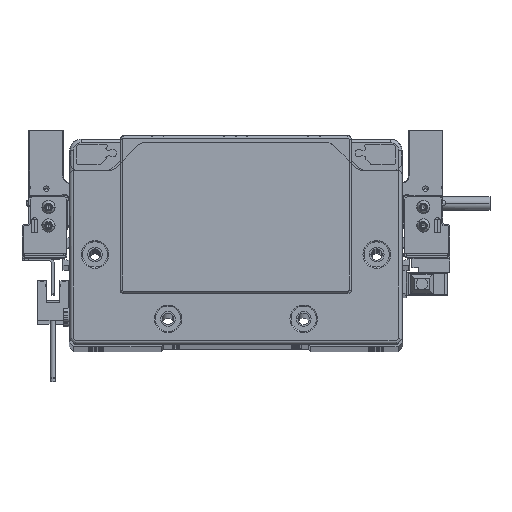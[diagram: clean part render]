
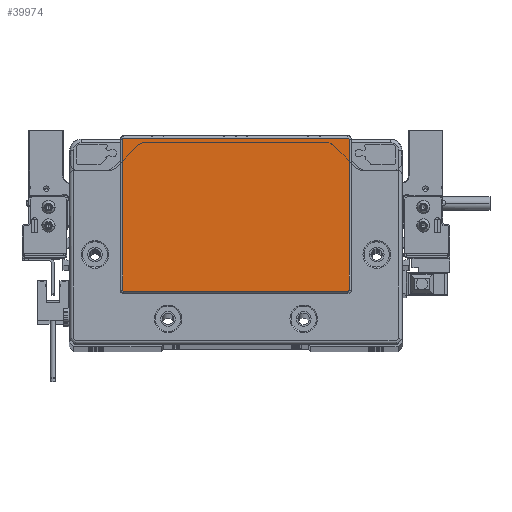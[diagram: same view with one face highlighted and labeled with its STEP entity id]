
A CAD part, top view. The second image highlights one B-rep face of the part: STEP entity #39974.
In plain terms, the highlighted planar face has unit normal (0, 0, 1) as drawn and (0, 0, -1) by its records, which use the part's own axes.
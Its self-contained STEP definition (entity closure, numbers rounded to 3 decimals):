
#276 = CARTESIAN_POINT ( 'NONE',  ( -48.75, 44.3, -2. ) ) ;
#975 = CIRCLE ( 'NONE', #60458, 0.5 ) ;
#2378 = CIRCLE ( 'NONE', #83736, 0.5 ) ;
#4112 = VERTEX_POINT ( 'NONE', #42833 ) ;
#4704 = ORIENTED_EDGE ( 'NONE', *, *, #27343, .T. ) ;
#6886 = EDGE_CURVE ( 'NONE', #96321, #4112, #39161, .T. ) ;
#6989 = EDGE_CURVE ( 'NONE', #63511, #55909, #70018, .T. ) ;
#8440 = CARTESIAN_POINT ( 'NONE',  ( 49.25, 43.8, -2. ) ) ;
#8451 = ORIENTED_EDGE ( 'NONE', *, *, #6989, .T. ) ;
#10514 = DIRECTION ( 'NONE',  ( 0., 0., -1. ) ) ;
#11356 = VECTOR ( 'NONE', #24446, 1000. ) ;
#11409 = CARTESIAN_POINT ( 'NONE',  ( -48.75, -21.8, -2. ) ) ;
#12480 = EDGE_LOOP ( 'NONE', ( #27764, #24602, #77431, #54826, #8451, #4704, #33158, #90410 ) ) ;
#13328 = DIRECTION ( 'NONE',  ( -1., 0., 0. ) ) ;
#16006 = CARTESIAN_POINT ( 'NONE',  ( -48.75, -22.3, -2. ) ) ;
#18087 = CARTESIAN_POINT ( 'NONE',  ( 48.75, -22.3, -2. ) ) ;
#18768 = DIRECTION ( 'NONE',  ( 0., 0., -1. ) ) ;
#22289 = CARTESIAN_POINT ( 'NONE',  ( 48.75, 44.3, -2. ) ) ;
#24446 = DIRECTION ( 'NONE',  ( 0., 1., 0. ) ) ;
#24602 = ORIENTED_EDGE ( 'NONE', *, *, #71176, .T. ) ;
#24831 = CARTESIAN_POINT ( 'NONE',  ( 0., 0., -2. ) ) ;
#25904 = CARTESIAN_POINT ( 'NONE',  ( -49.25, 43.8, -2. ) ) ;
#27343 = EDGE_CURVE ( 'NONE', #55909, #46701, #975, .T. ) ;
#27764 = ORIENTED_EDGE ( 'NONE', *, *, #6886, .T. ) ;
#27824 = EDGE_CURVE ( 'NONE', #28784, #63511, #82470, .T. ) ;
#28784 = VERTEX_POINT ( 'NONE', #16006 ) ;
#30125 = EDGE_CURVE ( 'NONE', #46701, #77104, #72776, .T. ) ;
#31151 = AXIS2_PLACEMENT_3D ( 'NONE', #95696, #35458, #58469 ) ;
#32679 = FACE_OUTER_BOUND ( 'NONE', #12480, .T. ) ;
#33158 = ORIENTED_EDGE ( 'NONE', *, *, #30125, .T. ) ;
#33953 = AXIS2_PLACEMENT_3D ( 'NONE', #11409, #94676, #13328 ) ;
#34860 = VECTOR ( 'NONE', #61485, 1000. ) ;
#35458 = DIRECTION ( 'NONE',  ( 0., 0., -1. ) ) ;
#39161 = LINE ( 'NONE', #76384, #86393 ) ;
#39974 = ADVANCED_FACE ( 'NONE', ( #32679 ), #70394, .T. ) ;
#41508 = AXIS2_PLACEMENT_3D ( 'NONE', #24831, #47853, #47370 ) ;
#42833 = CARTESIAN_POINT ( 'NONE',  ( 49.25, -21.8, -2. ) ) ;
#45509 = EDGE_CURVE ( 'NONE', #77104, #96321, #65545, .T. ) ;
#46701 = VERTEX_POINT ( 'NONE', #276 ) ;
#47370 = DIRECTION ( 'NONE',  ( -1., 0., 0. ) ) ;
#47744 = CARTESIAN_POINT ( 'NONE',  ( 48.75, -21.8, -2. ) ) ;
#47853 = DIRECTION ( 'NONE',  ( 0., 0., -1. ) ) ;
#54826 = ORIENTED_EDGE ( 'NONE', *, *, #27824, .T. ) ;
#55909 = VERTEX_POINT ( 'NONE', #65846 ) ;
#58469 = DIRECTION ( 'NONE',  ( -1., 0., 0. ) ) ;
#60458 = AXIS2_PLACEMENT_3D ( 'NONE', #93250, #18768, #86375 ) ;
#61485 = DIRECTION ( 'NONE',  ( -1., 0., 0. ) ) ;
#62454 = VECTOR ( 'NONE', #80626, 1000. ) ;
#63511 = VERTEX_POINT ( 'NONE', #79763 ) ;
#65545 = CIRCLE ( 'NONE', #31151, 0.5 ) ;
#65846 = CARTESIAN_POINT ( 'NONE',  ( -49.25, 43.8, -2. ) ) ;
#68361 = DIRECTION ( 'NONE',  ( -1., 0., 0. ) ) ;
#70018 = LINE ( 'NONE', #25904, #11356 ) ;
#70394 = PLANE ( 'NONE',  #41508 ) ;
#71176 = EDGE_CURVE ( 'NONE', #4112, #96845, #2378, .T. ) ;
#72092 = CARTESIAN_POINT ( 'NONE',  ( -48.75, -22.3, -2. ) ) ;
#72776 = LINE ( 'NONE', #22289, #62454 ) ;
#75422 = DIRECTION ( 'NONE',  ( 0., -1., 0. ) ) ;
#76192 = LINE ( 'NONE', #72092, #34860 ) ;
#76242 = CARTESIAN_POINT ( 'NONE',  ( 48.75, 44.3, -2. ) ) ;
#76384 = CARTESIAN_POINT ( 'NONE',  ( 49.25, -21.8, -2. ) ) ;
#77104 = VERTEX_POINT ( 'NONE', #76242 ) ;
#77431 = ORIENTED_EDGE ( 'NONE', *, *, #92063, .T. ) ;
#79763 = CARTESIAN_POINT ( 'NONE',  ( -49.25, -21.8, -2. ) ) ;
#80626 = DIRECTION ( 'NONE',  ( 1., 0., 0. ) ) ;
#82470 = CIRCLE ( 'NONE', #33953, 0.5 ) ;
#83736 = AXIS2_PLACEMENT_3D ( 'NONE', #47744, #10514, #68361 ) ;
#86375 = DIRECTION ( 'NONE',  ( -1., 0., 0. ) ) ;
#86393 = VECTOR ( 'NONE', #75422, 1000. ) ;
#90410 = ORIENTED_EDGE ( 'NONE', *, *, #45509, .T. ) ;
#92063 = EDGE_CURVE ( 'NONE', #96845, #28784, #76192, .T. ) ;
#93250 = CARTESIAN_POINT ( 'NONE',  ( -48.75, 43.8, -2. ) ) ;
#94676 = DIRECTION ( 'NONE',  ( 0., 0., -1. ) ) ;
#95696 = CARTESIAN_POINT ( 'NONE',  ( 48.75, 43.8, -2. ) ) ;
#96321 = VERTEX_POINT ( 'NONE', #8440 ) ;
#96845 = VERTEX_POINT ( 'NONE', #18087 ) ;
